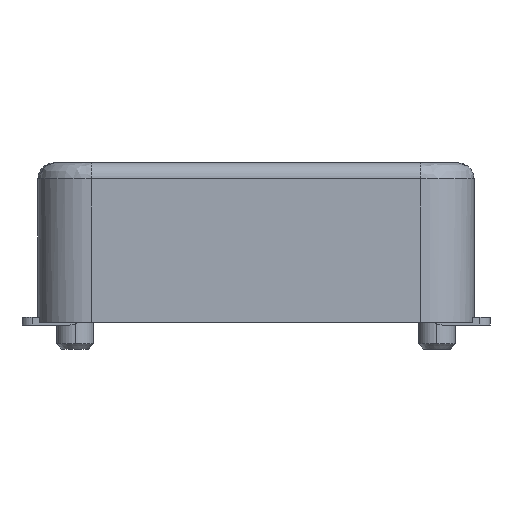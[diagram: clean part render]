
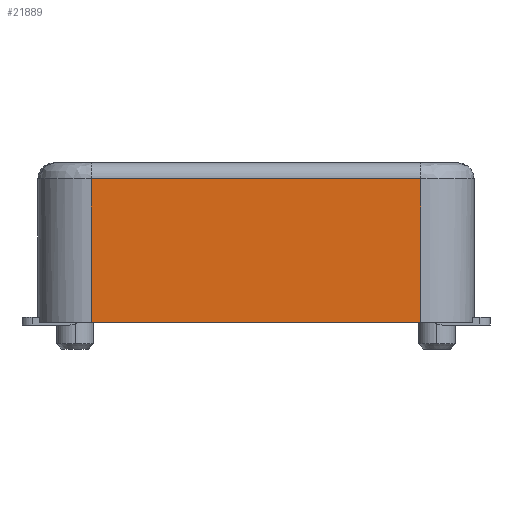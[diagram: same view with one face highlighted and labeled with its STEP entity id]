
A CAD part, front view. The second image highlights one B-rep face of the part: STEP entity #21889.
In plain terms, the highlighted planar face has unit normal (0, -1, 0).
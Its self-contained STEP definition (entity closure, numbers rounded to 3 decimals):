
#1251 = ORIENTED_EDGE ( 'NONE', *, *, #52793, .T. ) ;
#1328 = DIRECTION ( 'NONE',  ( -1., 0., 0. ) ) ;
#1907 = EDGE_LOOP ( 'NONE', ( #28768, #12599, #61738, #1251 ) ) ;
#3410 = DIRECTION ( 'NONE',  ( 0., 0., 1. ) ) ;
#3418 = DIRECTION ( 'NONE',  ( 0., 0., -1. ) ) ;
#10463 = EDGE_CURVE ( 'NONE', #72764, #53387, #60330, .T. ) ;
#12599 = ORIENTED_EDGE ( 'NONE', *, *, #10463, .T. ) ;
#15846 = CARTESIAN_POINT ( 'NONE',  ( -3.1, -8.45, 3. ) ) ;
#21889 = ADVANCED_FACE ( 'NONE', ( #47371 ), #69568, .F. ) ;
#26272 = EDGE_CURVE ( 'NONE', #53387, #57387, #69114, .T. ) ;
#28768 = ORIENTED_EDGE ( 'NONE', *, *, #46951, .F. ) ;
#34018 = LINE ( 'NONE', #72242, #57333 ) ;
#34998 = DIRECTION ( 'NONE',  ( -1., 0., 0. ) ) ;
#36899 = CARTESIAN_POINT ( 'NONE',  ( 3.1, -8.45, 2.7 ) ) ;
#40415 = CARTESIAN_POINT ( 'NONE',  ( 3.1, -8.45, 3. ) ) ;
#46951 = EDGE_CURVE ( 'NONE', #72764, #58937, #34018, .T. ) ;
#47371 = FACE_OUTER_BOUND ( 'NONE', #1907, .T. ) ;
#50568 = DIRECTION ( 'NONE',  ( 0., 1., 0. ) ) ;
#51375 = CARTESIAN_POINT ( 'NONE',  ( -4.1, -8.45, 3. ) ) ;
#52411 = CARTESIAN_POINT ( 'NONE',  ( 3.1, -8.45, 0. ) ) ;
#52793 = EDGE_CURVE ( 'NONE', #57387, #58937, #63611, .T. ) ;
#53387 = VERTEX_POINT ( 'NONE', #36899 ) ;
#54711 = DIRECTION ( 'NONE',  ( -1., 0., 0. ) ) ;
#57333 = VECTOR ( 'NONE', #34998, 1000. ) ;
#57387 = VERTEX_POINT ( 'NONE', #58883 ) ;
#58883 = CARTESIAN_POINT ( 'NONE',  ( -3.1, -8.45, 2.7 ) ) ;
#58937 = VERTEX_POINT ( 'NONE', #80186 ) ;
#60330 = LINE ( 'NONE', #40415, #76797 ) ;
#61738 = ORIENTED_EDGE ( 'NONE', *, *, #26272, .T. ) ;
#63611 = LINE ( 'NONE', #15846, #68496 ) ;
#66930 = CARTESIAN_POINT ( 'NONE',  ( -4.1, -8.45, 2.7 ) ) ;
#67790 = AXIS2_PLACEMENT_3D ( 'NONE', #51375, #50568, #1328 ) ;
#68496 = VECTOR ( 'NONE', #3418, 1000. ) ;
#69114 = LINE ( 'NONE', #66930, #74934 ) ;
#69568 = PLANE ( 'NONE',  #67790 ) ;
#72242 = CARTESIAN_POINT ( 'NONE',  ( 0., -8.45, 0. ) ) ;
#72764 = VERTEX_POINT ( 'NONE', #52411 ) ;
#74934 = VECTOR ( 'NONE', #54711, 1000. ) ;
#76797 = VECTOR ( 'NONE', #3410, 1000. ) ;
#80186 = CARTESIAN_POINT ( 'NONE',  ( -3.1, -8.45, 0. ) ) ;
